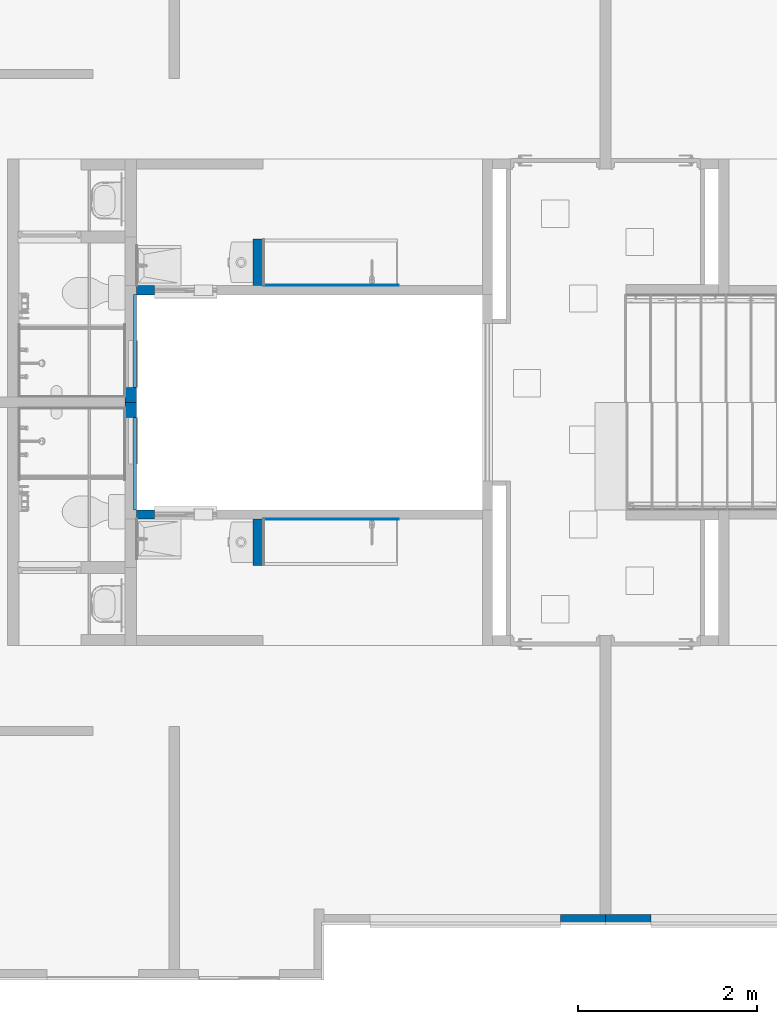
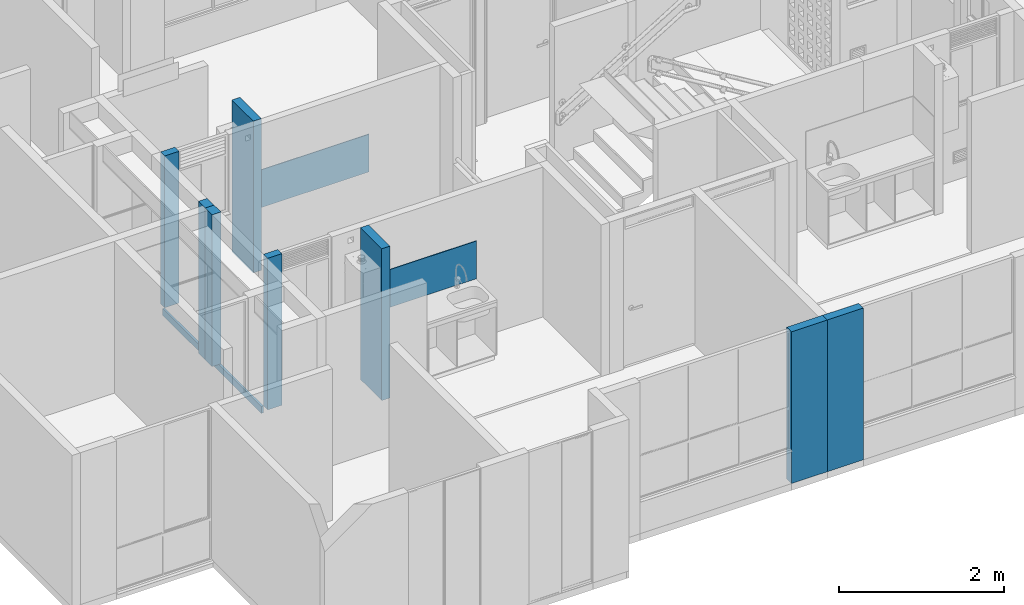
# One storey, part 8 of 48: 12 walls, 2 openings.
"""IFC4 building model written with IfcOpenShell, lengths in metres."""

from ifc_helpers import new_model, entity, si_unit, converted_unit, derived_unit, direction, frame, origin, place, context, subcontext, project, spatial, indexed_curve, outline, extrude, material, constituent, constituent_set, type_object, element, save


model = new_model("IFC4")

# Units and contexts
model_context = context("Model", 3, precision=1e-05, world=origin(), true_north=direction((6.123031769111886e-17, 1.0)))
body_context = subcontext(model_context, "Body", "Model", "MODEL_VIEW")
ifc_project = project(units=[si_unit("LENGTHUNIT", "METRE"), si_unit("AREAUNIT", "SQUARE_METRE"), si_unit("VOLUMEUNIT", "CUBIC_METRE"), converted_unit("PLANEANGLEUNIT", "DEGREE", entity("IfcRatioMeasure", 0.017453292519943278), si_unit("PLANEANGLEUNIT", "RADIAN"), dimensions=[0, 0, 0, 0, 0, 0, 0]), si_unit("MASSUNIT", "GRAM", prefix="KILO"), derived_unit("MASSDENSITYUNIT", [(si_unit("MASSUNIT", "GRAM", prefix="KILO"), 1), (si_unit("LENGTHUNIT", "METRE"), -3)]), derived_unit("IONCONCENTRATIONUNIT", [(si_unit("MASSUNIT", "GRAM", prefix="KILO"), 1), (si_unit("LENGTHUNIT", "METRE"), -3)]), derived_unit("MOMENTOFINERTIAUNIT", [(si_unit("LENGTHUNIT", "METRE"), 4)]), si_unit("TIMEUNIT", "SECOND"), si_unit("FREQUENCYUNIT", "HERTZ"), si_unit("THERMODYNAMICTEMPERATUREUNIT", "DEGREE_CELSIUS"), derived_unit("THERMALTRANSMITTANCEUNIT", [(si_unit("MASSUNIT", "GRAM", prefix="KILO"), 1), (si_unit("THERMODYNAMICTEMPERATUREUNIT", "KELVIN"), -1), (si_unit("TIMEUNIT", "SECOND"), -3)]), derived_unit("THERMALCONDUCTANCEUNIT", [(si_unit("MASSUNIT", "GRAM", prefix="KILO"), 1), (si_unit("THERMODYNAMICTEMPERATUREUNIT", "KELVIN"), -1), (si_unit("TIMEUNIT", "SECOND"), -3), (si_unit("LENGTHUNIT", "METRE"), 1)]), derived_unit("VOLUMETRICFLOWRATEUNIT", [(si_unit("LENGTHUNIT", "METRE"), 3), (si_unit("TIMEUNIT", "SECOND"), -1)]), derived_unit("MASSFLOWRATEUNIT", [(si_unit("MASSUNIT", "GRAM", prefix="KILO"), 1), (si_unit("TIMEUNIT", "SECOND"), -1)]), derived_unit("ROTATIONALFREQUENCYUNIT", [(si_unit("TIMEUNIT", "SECOND"), -1)]), si_unit("ELECTRICCURRENTUNIT", "AMPERE"), si_unit("ELECTRICVOLTAGEUNIT", "VOLT"), si_unit("POWERUNIT", "WATT"), si_unit("FORCEUNIT", "NEWTON", prefix="KILO"), si_unit("ILLUMINANCEUNIT", "LUX"), si_unit("LUMINOUSFLUXUNIT", "LUMEN"), si_unit("LUMINOUSINTENSITYUNIT", "CANDELA"), derived_unit("USERDEFINED", [(si_unit("MASSUNIT", "GRAM", prefix="KILO"), -1), (si_unit("LENGTHUNIT", "METRE"), -2), (si_unit("TIMEUNIT", "SECOND"), 3), (si_unit("LUMINOUSFLUXUNIT", "LUMEN"), 1)]), derived_unit("USERDEFINED", [(si_unit("MASSUNIT", "GRAM", prefix="KILO"), 1), (si_unit("TIMEUNIT", "SECOND"), -3), (si_unit("LENGTHUNIT", "METRE"), 3), (si_unit("ELECTRICCURRENTUNIT", "AMPERE"), -2)]), derived_unit("SOUNDPOWERUNIT", [(si_unit("MASSUNIT", "GRAM", prefix="KILO"), 1), (si_unit("TIMEUNIT", "SECOND"), -3), (si_unit("LENGTHUNIT", "METRE"), 2)]), derived_unit("SOUNDPRESSUREUNIT", [(si_unit("MASSUNIT", "GRAM", prefix="KILO"), 1), (si_unit("LENGTHUNIT", "METRE"), -1), (si_unit("TIMEUNIT", "SECOND"), -2)]), derived_unit("LINEARVELOCITYUNIT", [(si_unit("LENGTHUNIT", "METRE"), 1), (si_unit("TIMEUNIT", "SECOND"), -1)]), si_unit("PRESSUREUNIT", "PASCAL"), derived_unit("USERDEFINED", [(si_unit("MASSUNIT", "GRAM", prefix="KILO"), 1), (si_unit("LENGTHUNIT", "METRE"), -2), (si_unit("TIMEUNIT", "SECOND"), -2)]), derived_unit("LINEARFORCEUNIT", [(si_unit("MASSUNIT", "GRAM", prefix="KILO"), 1), (si_unit("TIMEUNIT", "SECOND"), -2)]), derived_unit("PLANARFORCEUNIT", [(si_unit("MASSUNIT", "GRAM", prefix="KILO"), 1), (si_unit("LENGTHUNIT", "METRE"), -1), (si_unit("TIMEUNIT", "SECOND"), -2)]), derived_unit("SPECIFICHEATCAPACITYUNIT", [(si_unit("THERMODYNAMICTEMPERATUREUNIT", "KELVIN"), -1), (si_unit("LENGTHUNIT", "METRE"), 2), (si_unit("TIMEUNIT", "SECOND"), -2)]), derived_unit("HEATINGVALUEUNIT", [(si_unit("LENGTHUNIT", "METRE"), 2), (si_unit("TIMEUNIT", "SECOND"), -2)]), derived_unit("VAPORPERMEABILITYUNIT", [(si_unit("LENGTHUNIT", "METRE"), -1), (si_unit("TIMEUNIT", "SECOND"), 1)]), derived_unit("DYNAMICVISCOSITYUNIT", [(si_unit("MASSUNIT", "GRAM", prefix="KILO"), 1), (si_unit("TIMEUNIT", "SECOND"), -1), (si_unit("LENGTHUNIT", "METRE"), -1)]), derived_unit("THERMALEXPANSIONCOEFFICIENTUNIT", [(si_unit("THERMODYNAMICTEMPERATUREUNIT", "KELVIN"), -1)]), derived_unit("MODULUSOFELASTICITYUNIT", [(si_unit("MASSUNIT", "GRAM", prefix="KILO"), 1), (si_unit("LENGTHUNIT", "METRE"), -1), (si_unit("TIMEUNIT", "SECOND"), -2)]), derived_unit("ISOTHERMALMOISTURECAPACITYUNIT", [(si_unit("LENGTHUNIT", "METRE"), 3), (si_unit("MASSUNIT", "GRAM", prefix="KILO"), -1)]), derived_unit("MOISTUREDIFFUSIVITYUNIT", [(si_unit("TIMEUNIT", "SECOND"), -1), (si_unit("LENGTHUNIT", "METRE"), 2)])], contexts=[model_context])

# Site, building, storey
site_placement = place(None, origin())
site = spatial("IfcSite", under=ifc_project, at=site_placement, Name="Default", CompositionType="ELEMENT")
building_placement = place(site_placement, origin())
building = spatial("IfcBuilding", under=site, at=building_placement, CompositionType="ELEMENT")
storey_placement = place(building_placement, frame((0.0, 0.0, 9.40000000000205)))
storey = spatial("IfcBuildingStorey", under=building, at=storey_placement, Name="Nivel 5", CompositionType="ELEMENT", Elevation=9.40000000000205)

# Walls
ifc_material_1 = material(Name="LADRILLO CLARO", Category="Materials")
wall_type_1 = type_object("IfcWallType", Name="Basic Wall:B2010 - 0.115m - ME mampostería no estructural - Ladrillo", PredefinedType="STANDARD")
wall_1_placement = place(storey_placement, frame((8.817499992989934, -12.197500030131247, 0.0)))
element("IfcWall", 1, at=wall_1_placement, inside=storey, type_object=wall_type_1, material=ifc_material_1, Name="Basic Wall:B2010 - 0.115m - ME mampostería no estructural - Ladrillo", ObjectType="Basic Wall:B2010 - 0.115m - ME mampostería no estructural - Ladrillo", PredefinedType="NOTDEFINED", context=body_context, shape_type="SweptSolid", body=[
    extrude(outline(indexed_curve([(0.5050000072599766, 0.05749999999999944), (1.5136500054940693e-16, 0.057499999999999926), (-1.5136500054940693e-16, -0.057499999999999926), (0.5050000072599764, -0.057500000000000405), (0.5050000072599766, 0.05749999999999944)], self_intersect=False)), origin(), (0.0, 0.0, 1.0), 2.2500000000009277),
])
wall_2_placement = place(storey_placement, frame((9.82750000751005, -12.197500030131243, 0.0), z_axis=(0.0, 0.0, 1.0), x_axis=(-1.0, 0.0, 0.0)))
element("IfcWall", 2, at=wall_2_placement, inside=storey, type_object=wall_type_1, material=ifc_material_1, Name="Basic Wall:B2010 - 0.115m - ME mampostería no estructural - Ladrillo", ObjectType="Basic Wall:B2010 - 0.115m - ME mampostería no estructural - Ladrillo", PredefinedType="NOTDEFINED", context=body_context, shape_type="SweptSolid", body=[
    extrude(outline(indexed_curve([(0.5050000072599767, 0.05750000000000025), (2.0895521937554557e-16, 0.057499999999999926), (-2.0895521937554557e-16, -0.057499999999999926), (0.5050000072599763, -0.05749999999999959), (0.5050000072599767, 0.05750000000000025)], self_intersect=False)), origin(), (0.0, 0.0, 1.0), 2.2500000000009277),
])

# Wall, opening
ifc_material_2 = material(Name="PINTURA BLANCA PARA EXTERIORES", Category="Materials")
ifc_constituent_1 = constituent(ifc_material_2, Name="PINTURA BLANCA PARA EXTERIORES", Category="Materials")
ifc_material_3 = material(Name="Concreto - Fundido in situ", Category="Materials")
ifc_constituent_2 = constituent(ifc_material_3, Name="Concreto - Fundido in situ", Category="Materials")
ifc_constituent_set_1 = constituent_set(constituents=[ifc_constituent_1, ifc_constituent_2], Name="Basic Wall:B2010 - 0.10m - MI no estructural- Concreto + repello+ pintura blanca")
wall_type_2 = type_object("IfcWallType", Name="Basic Wall:B2010 - 0.10m - MI no estructural- Concreto + repello+ pintura blanca", PredefinedType="STANDARD", material=ifc_constituent_set_1)
wall_3_placement = place(storey_placement, frame((4.087499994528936, -5.175000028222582, 0.0)))
wall_3 = element("IfcWall", 3, at=wall_3_placement, inside=storey, type_object=wall_type_2, material=ifc_constituent_set_1, Name="Basic Wall:B2010 - 0.10m - MI no estructural- Concreto + repello+ pintura blanca", ObjectType="Basic Wall:B2010 - 0.10m - MI no estructural- Concreto + repello+ pintura blanca", PredefinedType="NOTDEFINED", context=body_context, shape_type="SweptSolid", body=[
    extrude(outline(indexed_curve([(-0.0004999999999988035, -0.10000000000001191), (0.0005000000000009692, -0.10000000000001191), (0.0004999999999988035, 0.10000000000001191), (-0.0005000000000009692, 0.10000000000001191), (-0.0004999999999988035, -0.10000000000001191)], self_intersect=False)), frame((0.10000000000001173, -0.04999999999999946, 0.0), z_axis=(0.0, 0.0, 1.0), x_axis=(0.0, 1.0, 0.0)), (0.0, 0.0, 1.0), 2.2499999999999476),
    extrude(outline(indexed_curve([(-0.04999999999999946, -0.10000000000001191), (0.050000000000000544, -0.10000000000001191), (0.050000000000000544, 0.10000000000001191), (-0.04999999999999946, 0.10000000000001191), (-0.04999999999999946, -0.10000000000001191)], self_intersect=False)), frame((0.10000000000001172, 0.0005000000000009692, 0.0), z_axis=(0.0, 0.0, 1.0), x_axis=(0.0, -1.0, 0.0)), (0.0, 0.0, 1.0), 2.2499999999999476),
])
opening_1_placement = place(wall_3_placement, origin())
element("IfcOpeningElement", 4, at=opening_1_placement, cuts=wall_3, Name="Basic Wall:B2010 - 0.10m - MI no estructural- Concreto + repello+ pintura blanca", PredefinedType="OPENING", context=body_context, shape_type="SweptSolid", body=[
    extrude(outline(indexed_curve([(-0.5749999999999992, -0.35000000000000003), (0.5749999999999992, -0.35000000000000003), (0.5749999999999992, 0.3499999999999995), (-0.5749999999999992, 0.3499999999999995), (-0.5749999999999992, -0.35000000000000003)], self_intersect=False)), frame((0.5500000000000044, -1.4734999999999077, 1.674999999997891), z_axis=(0.0, 1.0, 0.0), x_axis=(0.0, 0.0, 1.0)), (0.0, 0.0, 1.0), 3.048),
])

wall_4_placement = place(storey_placement, frame((4.087499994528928, -7.6750000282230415, 0.0)))
wall_4 = element("IfcWall", 5, at=wall_4_placement, inside=storey, type_object=wall_type_2, material=ifc_constituent_set_1, Name="Basic Wall:B2010 - 0.10m - MI no estructural- Concreto + repello+ pintura blanca", ObjectType="Basic Wall:B2010 - 0.10m - MI no estructural- Concreto + repello+ pintura blanca", PredefinedType="NOTDEFINED", context=body_context, shape_type="SweptSolid", body=[
    extrude(outline(indexed_curve([(-0.000500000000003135, -0.10000000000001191), (0.0004999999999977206, -0.10000000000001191), (0.0005000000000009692, 0.10000000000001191), (-0.0004999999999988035, 0.10000000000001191), (-0.000500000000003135, -0.10000000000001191)], self_intersect=False)), frame((0.10000000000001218, 0.04999999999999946, 0.0), z_axis=(0.0, 0.0, 1.0), x_axis=(0.0, -1.0, 0.0)), (0.0, 0.0, 1.0), 2.2499999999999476),
    extrude(outline(indexed_curve([(-0.05, -0.10000000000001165), (0.05, -0.10000000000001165), (0.05, 0.10000000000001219), (-0.04999999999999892, 0.10000000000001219), (-0.05, -0.10000000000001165)], self_intersect=False)), frame((0.1000000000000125, -0.0004999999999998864, 0.0), z_axis=(0.0, 0.0, 1.0), x_axis=(0.0, 1.0, 0.0)), (0.0, 0.0, 1.0), 2.2499999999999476),
])
opening_2_placement = place(wall_4_placement, origin())
element("IfcOpeningElement", 6, at=opening_2_placement, cuts=wall_4, Name="Basic Wall:B2010 - 0.10m - MI no estructural- Concreto + repello+ pintura blanca", PredefinedType="OPENING", context=body_context, shape_type="SweptSolid", body=[
    extrude(outline(indexed_curve([(-0.5749999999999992, -0.35000000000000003), (0.5749999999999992, -0.35000000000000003), (0.5749999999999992, 0.3499999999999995), (-0.5749999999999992, 0.3499999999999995), (-0.5749999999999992, -0.35000000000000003)], self_intersect=False)), frame((0.5500000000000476, -1.5745000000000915, 1.674999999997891), z_axis=(0.0, 1.0, 0.0), x_axis=(0.0, 0.0, 1.0)), (0.0, 0.0, 1.0), 3.048),
])

# Walls
wall_type_3 = type_object("IfcWallType", Name="Basic Wall:B2010 - 0.115m - MI mampostería no estructural - Ladrillo", PredefinedType="STANDARD")
wall_5_placement = place(storey_placement, frame((5.44499999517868, -4.605000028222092, 0.0), z_axis=(0.0, 0.0, 1.0), x_axis=(0.0, -1.0, 0.0)))
element("IfcWall", 7, at=wall_5_placement, inside=storey, type_object=wall_type_3, material=ifc_material_1, Name="Basic Wall:B2010 - 0.115m - MI mampostería no estructural - Ladrillo", ObjectType="Basic Wall:B2010 - 0.115m - MI mampostería no estructural - Ladrillo", PredefinedType="NOTDEFINED", context=body_context, shape_type="SweptSolid", body=[
    extrude(outline(indexed_curve([(0.5195000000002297, 0.057500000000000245), (2.0425946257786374e-16, 0.057499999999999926), (-2.0425946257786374e-16, -0.057499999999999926), (0.5195000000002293, -0.0574999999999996), (0.5195000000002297, 0.057500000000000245)], self_intersect=False)), origin(), (0.0, 0.0, 1.0), 2.2500000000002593),
])
wall_6_placement = place(storey_placement, frame((5.4449999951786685, -8.245000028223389, 0.0), z_axis=(0.0, 0.0, 1.0), x_axis=(0.0, 1.0, 0.0)))
element("IfcWall", 8, at=wall_6_placement, inside=storey, type_object=wall_type_3, material=ifc_material_1, Name="Basic Wall:B2010 - 0.115m - MI mampostería no estructural - Ladrillo", ObjectType="Basic Wall:B2010 - 0.115m - MI mampostería no estructural - Ladrillo", PredefinedType="NOTDEFINED", context=body_context, shape_type="SweptSolid", body=[
    extrude(outline(indexed_curve([(0.51950000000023, 0.05749999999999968), (5.098138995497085e-16, 0.057499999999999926), (-5.098138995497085e-16, -0.057499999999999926), (0.519500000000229, -0.05750000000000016), (0.51950000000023, 0.05749999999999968)], self_intersect=False)), origin(), (0.0, 0.0, 1.0), 2.2500000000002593),
])
ifc_material_4 = material(Name="Ceramica Salpicadero 0.28m x 0.45m", Category="Materials")
wall_type_4 = type_object("IfcWallType", Name="Basic Wall:C2010 - 0.28 x 0.45 - Salpicadero - Cerámica", PredefinedType="STANDARD")
wall_7_placement = place(storey_placement, frame((5.502499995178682, -5.120000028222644, 0.9299999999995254)))
element("IfcWall", 9, at=wall_7_placement, inside=storey, type_object=wall_type_4, material=ifc_material_4, Name="Basic Wall:C2010 - 0.28 x 0.45 - Salpicadero - Cerámica", ObjectType="Basic Wall:C2010 - 0.28 x 0.45 - Salpicadero - Cerámica", PredefinedType="NOTDEFINED", context=body_context, shape_type="SweptSolid", body=[
    extrude(outline(indexed_curve([(1.5100000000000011, 0.005000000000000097), (-1.8429308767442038e-17, 0.004999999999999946), (1.8429308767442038e-17, -0.004999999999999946), (1.5100000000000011, -0.004999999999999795), (1.5100000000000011, 0.005000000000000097)], self_intersect=False)), origin(), (0.0, 0.0, 1.0), 0.5599999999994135),
])
wall_8_placement = place(storey_placement, frame((5.502499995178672, -7.730000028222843, 0.9299999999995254)))
element("IfcWall", 10, at=wall_8_placement, inside=storey, type_object=wall_type_4, material=ifc_material_4, Name="Basic Wall:C2010 - 0.28 x 0.45 - Salpicadero - Cerámica", ObjectType="Basic Wall:C2010 - 0.28 x 0.45 - Salpicadero - Cerámica", PredefinedType="NOTDEFINED", context=body_context, shape_type="SweptSolid", body=[
    extrude(outline(indexed_curve([(1.5100000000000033, 0.004999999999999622), (-1.326925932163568e-17, 0.004999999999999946), (1.326925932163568e-17, -0.004999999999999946), (1.5100000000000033, -0.005000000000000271), (1.5100000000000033, 0.004999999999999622)], self_intersect=False)), origin(), (0.0, 0.0, 1.0), 0.5599999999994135),
])
ifc_material_5 = material(Name="Pañete", Category="Materials")
ifc_constituent_3 = constituent(ifc_material_5, Name="Pañete", Category="Materials")
ifc_constituent_4 = constituent(ifc_material_1, Name="LADRILLO CLARO", Category="Materials")
ifc_constituent_set_2 = constituent_set(constituents=[ifc_constituent_3, ifc_constituent_4], Name="Basic Wall:B2010 - 0.115m - MI  mampostería no estructural - Ladrillo + Pañete")
wall_type_5 = type_object("IfcWallType", Name="Basic Wall:B2010 - 0.115m - MI  mampostería no estructural - Ladrillo + Pañete", PredefinedType="STANDARD", material=ifc_constituent_set_2)
wall_9_placement = place(storey_placement, frame((4.0249999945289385, -6.257812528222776, 0.0), z_axis=(0.0, 0.0, 1.0), x_axis=(0.0, -1.0, 0.0)))
element("IfcWall", 11, at=wall_9_placement, inside=storey, type_object=wall_type_5, material=ifc_constituent_set_2, Name="Basic Wall:B2010 - 0.115m - MI  mampostería no estructural - Ladrillo + Pañete", ObjectType="Basic Wall:B2010 - 0.115m - MI  mampostería no estructural - Ladrillo + Pañete", PredefinedType="NOTDEFINED", context=body_context, shape_type="SweptSolid", body=[
    extrude(outline(indexed_curve([(-0.004999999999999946, -0.08359375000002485), (0.004999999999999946, -0.08359375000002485), (0.004999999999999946, 0.08359375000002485), (-0.004999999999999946, 0.08359375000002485), (-0.004999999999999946, -0.08359375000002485)], self_intersect=False)), frame((0.08359375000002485, -0.05750000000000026, 0.0), z_axis=(0.0, 0.0, 1.0), x_axis=(0.0, 1.0, 0.0)), (0.0, 0.0, 1.0), 2.2500000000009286),
    extrude(outline(indexed_curve([(-0.057499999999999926, -0.08359375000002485), (0.057499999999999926, -0.08359375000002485), (0.057499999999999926, 0.08359375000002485), (-0.057499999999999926, 0.08359375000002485), (-0.057499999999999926, -0.08359375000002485)], self_intersect=False)), frame((0.08359375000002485, 0.00499999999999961, 0.0), z_axis=(0.0, 0.0, 1.0), x_axis=(0.0, -1.0, 0.0)), (0.0, 0.0, 1.0), 2.2500000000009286),
])
wall_10_placement = place(storey_placement, frame((4.024999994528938, -6.592187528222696, 0.0), z_axis=(0.0, 0.0, 1.0), x_axis=(0.0, 1.0, 0.0)))
element("IfcWall", 12, at=wall_10_placement, inside=storey, type_object=wall_type_5, material=ifc_constituent_set_2, Name="Basic Wall:B2010 - 0.115m - MI  mampostería no estructural - Ladrillo + Pañete", ObjectType="Basic Wall:B2010 - 0.115m - MI  mampostería no estructural - Ladrillo + Pañete", PredefinedType="NOTDEFINED", context=body_context, shape_type="SweptSolid", body=[
    extrude(outline(indexed_curve([(-0.0050000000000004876, -0.08359375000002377), (0.004999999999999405, -0.08359375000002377), (0.005000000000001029, 0.08359375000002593), (-0.004999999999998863, 0.08359375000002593), (-0.0050000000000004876, -0.08359375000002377)], self_intersect=False)), frame((0.08359375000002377, 0.057500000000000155, 0.0), z_axis=(0.0, 0.0, 1.0), x_axis=(0.0, -1.0, 0.0)), (0.0, 0.0, 1.0), 2.2500000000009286),
    extrude(outline(indexed_curve([(-0.05750000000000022, -0.08359375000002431), (0.05749999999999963, -0.08359375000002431), (0.057499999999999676, 0.08359375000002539), (-0.05750000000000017, 0.08359375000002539), (-0.05750000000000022, -0.08359375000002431)], self_intersect=False)), frame((0.08359375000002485, -0.004999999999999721, 0.0), z_axis=(0.0, 0.0, 1.0), x_axis=(0.0, 1.0, 0.0)), (0.0, 0.0, 1.0), 2.2500000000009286),
])
wall_type_6 = type_object("IfcWallType", Name="Basic Wall:B2010 - 0.03m - ME enchape  no estructural - Ladrillo", PredefinedType="STANDARD")
wall_11_placement = place(storey_placement, frame((4.072499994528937, -5.225000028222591, -0.10000000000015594), z_axis=(0.0, 0.0, 1.0), x_axis=(0.0, -1.0, 0.0)))
element("IfcWall", 13, at=wall_11_placement, inside=storey, type_object=wall_type_6, material=ifc_material_1, Name="Basic Wall:B2010 - 0.03m - ME enchape  no estructural - Ladrillo", ObjectType="Basic Wall:B2010 - 0.03m - ME enchape  no estructural - Ladrillo", PredefinedType="NOTDEFINED", context=body_context, shape_type="SweptSolid", body=[
    extrude(outline(indexed_curve([(1.2000000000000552, 0.014999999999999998), (-6.966570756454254e-17, 0.014999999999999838), (6.966570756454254e-17, -0.014999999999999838), (1.2000000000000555, -0.01499999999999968), (1.2000000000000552, 0.014999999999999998)], self_intersect=False)), origin(), (0.0, 0.0, 1.0), 0.09999999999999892),
])
wall_12_placement = place(storey_placement, frame((4.072499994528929, -7.625000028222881, -0.10000000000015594), z_axis=(0.0, 0.0, 1.0), x_axis=(0.0, 1.0, 0.0)))
element("IfcWall", 14, at=wall_12_placement, inside=storey, type_object=wall_type_6, material=ifc_material_1, Name="Basic Wall:B2010 - 0.03m - ME enchape  no estructural - Ladrillo", ObjectType="Basic Wall:B2010 - 0.03m - ME enchape  no estructural - Ladrillo", PredefinedType="NOTDEFINED", context=body_context, shape_type="SweptSolid", body=[
    extrude(outline(indexed_curve([(1.2000000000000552, 0.014999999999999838), (-2.707167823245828e-17, 0.014999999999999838), (2.707167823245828e-17, -0.014999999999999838), (1.2000000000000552, -0.014999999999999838), (1.2000000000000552, 0.014999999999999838)], self_intersect=False)), origin(), (0.0, 0.0, 1.0), 0.09999999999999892),
])

save(model, "model.ifc")
